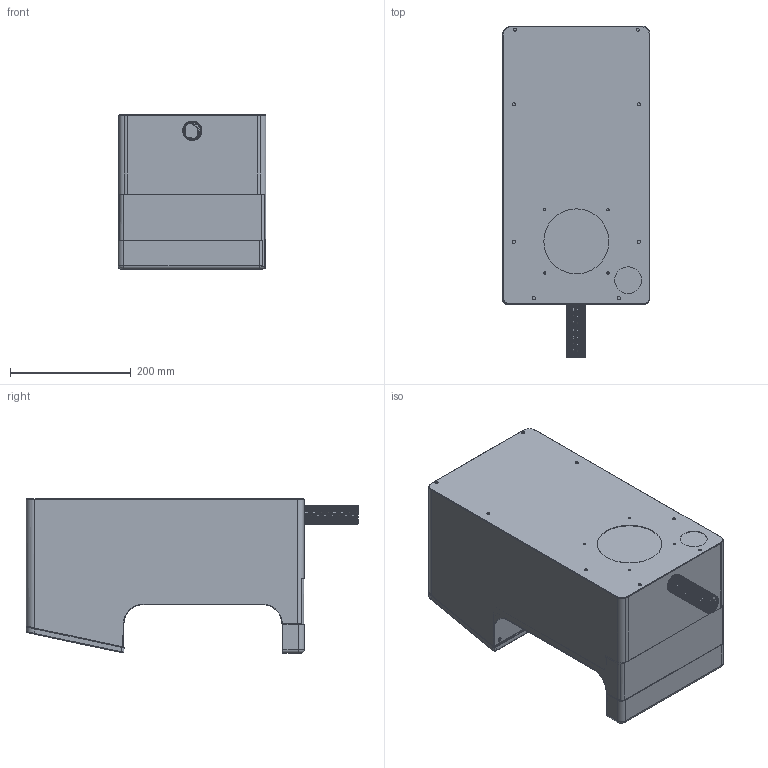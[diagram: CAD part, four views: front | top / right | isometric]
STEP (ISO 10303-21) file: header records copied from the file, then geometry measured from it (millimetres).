
FILE_DESCRIPTION (( 'STEP AP203' ), '1' );
FILE_NAME ('SINGLE PART HU FINAL.STEP', '2025-07-09T16:20:44', ( '' ), ( '' ), 'SwSTEP 2.0', 'SolidWorks 2025', '' );
FILE_SCHEMA (( 'CONFIG_CONTROL_DESIGN' ));
Length unit declared in the file: inch
Products named in the file (1): SINGLE PART HU FINAL
Bounding box: 245.57 x 550.95 x 256.5 mm (x, y, z)
Volume: 20402228.7 mm3; surface area: 839924.7 mm2
Topology: 1 solids, 6 shells, 937 faces, 2553 edges, 1673 vertices
Faces by surface type: plane 436, cylinder 435, bspline 43, torus 12, cone 10, sphere 1
Entity records: 36733 total; most frequent: CARTESIAN_POINT 13771, ORIENTED_EDGE 5106, DIRECTION 4512, EDGE_CURVE 2553, VERTEX_POINT 1673, AXIS2_PLACEMENT_3D 1540, VECTOR 1432, LINE 1432
